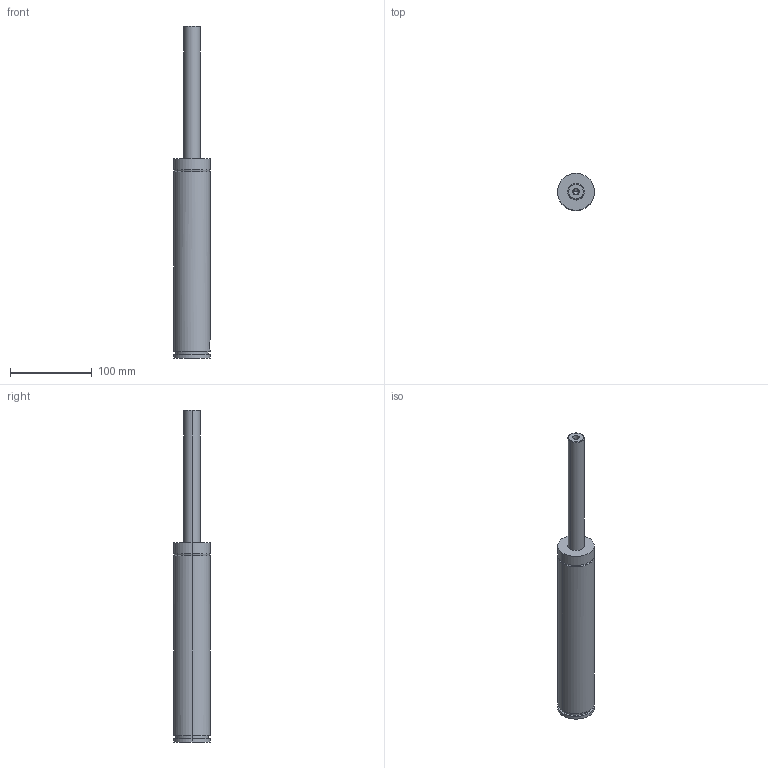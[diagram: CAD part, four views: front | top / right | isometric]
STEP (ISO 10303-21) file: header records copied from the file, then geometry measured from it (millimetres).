
FILE_DESCRIPTION(/* description */ (''),/* implementation_level */ '2;1');
FILE_NAME(/* name */ '3d_gse45-160_03885_r00.stp',/* time_stamp */ '2011-01-10T14:15:19+09:00',/* author */ ('MISUMI'),/* organization */ (''),/* preprocessor_version */ 'ST-DEVELOPER v11',/* originating_system */ 'UGS - NX 5.0',/* authorisation */ '');
FILE_SCHEMA (('CONFIG_CONTROL_DESIGN'));
Length unit declared in the file: millimetre
Products named in the file (1): 3d_gse45-160_03885_r00
Bounding box: 45 x 45 x 405 mm (x, y, z)
Volume: 433177.5 mm3; surface area: 49809.3 mm2
Topology: 1 solids, 1 shells, 57 faces, 122 edges, 77 vertices
Faces by surface type: cylinder 26, plane 21, cone 6, torus 4
Entity records: 1648 total; most frequent: DIRECTION 296, CARTESIAN_POINT 279, ORIENTED_EDGE 240, AXIS2_PLACEMENT_3D 122, EDGE_CURVE 120, VERTEX_POINT 77, EDGE_LOOP 69, CIRCLE 64
